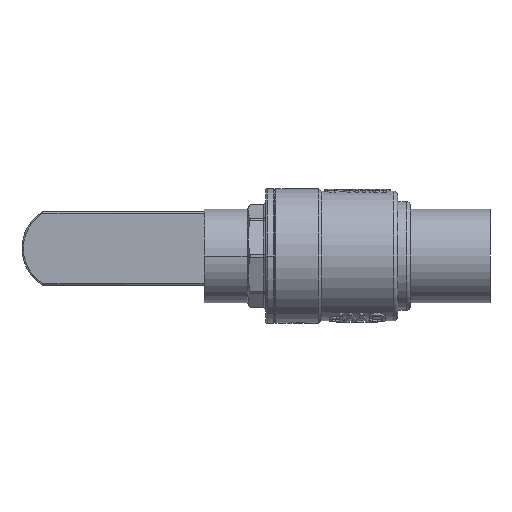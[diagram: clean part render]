
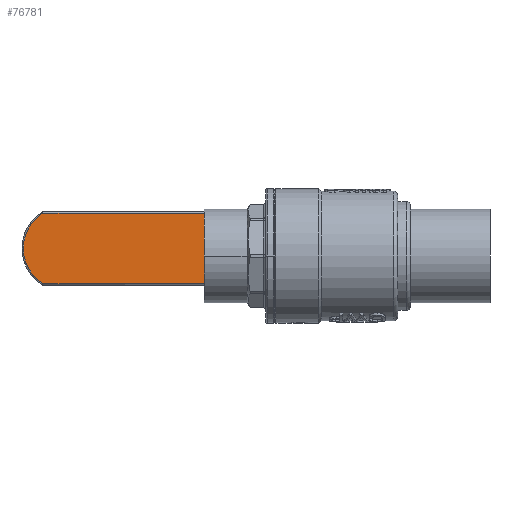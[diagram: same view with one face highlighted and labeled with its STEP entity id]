
A CAD part, front view. The second image highlights one B-rep face of the part: STEP entity #76781.
In plain terms, the highlighted planar face has unit normal (0, -1, 0).
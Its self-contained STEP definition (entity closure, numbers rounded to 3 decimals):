
#1424 = CIRCLE ( 'NONE', #6334, 15.5 ) ;
#1685 = FACE_OUTER_BOUND ( 'NONE', #95164, .T. ) ;
#1695 = AXIS2_PLACEMENT_3D ( 'NONE', #44220, #26869, #18580 ) ;
#2484 = DIRECTION ( 'NONE',  ( 0., 0., -1. ) ) ;
#6334 = AXIS2_PLACEMENT_3D ( 'NONE', #29950, #98539, #22409 ) ;
#14631 = ORIENTED_EDGE ( 'NONE', *, *, #22830, .T. ) ;
#15629 = CARTESIAN_POINT ( 'NONE',  ( 44.703, 21.4, -13.15 ) ) ;
#18580 = DIRECTION ( 'NONE',  ( 0., 0., 1. ) ) ;
#19074 = VERTEX_POINT ( 'NONE', #102108 ) ;
#22409 = DIRECTION ( 'NONE',  ( 0., 0., 1. ) ) ;
#22830 = EDGE_CURVE ( 'NONE', #19074, #91137, #86905, .T. ) ;
#26869 = DIRECTION ( 'NONE',  ( 0., 1., 0. ) ) ;
#29950 = CARTESIAN_POINT ( 'NONE',  ( 105., 21.4, 0. ) ) ;
#33671 = EDGE_CURVE ( 'NONE', #92614, #19074, #56793, .T. ) ;
#37524 = CARTESIAN_POINT ( 'NONE',  ( 45.203, 21.4, 12.65 ) ) ;
#37834 = VECTOR ( 'NONE', #2484, 1000. ) ;
#38557 = VERTEX_POINT ( 'NONE', #103615 ) ;
#43841 = PLANE ( 'NONE',  #1695 ) ;
#44220 = CARTESIAN_POINT ( 'NONE',  ( 44.703, 21.4, 12.65 ) ) ;
#49351 = VECTOR ( 'NONE', #79702, 1000. ) ;
#51564 = ORIENTED_EDGE ( 'NONE', *, *, #66765, .T. ) ;
#51800 = DIRECTION ( 'NONE',  ( 1., 0., 0. ) ) ;
#54500 = VECTOR ( 'NONE', #51800, 1000. ) ;
#56793 = LINE ( 'NONE', #37524, #37834 ) ;
#62357 = ORIENTED_EDGE ( 'NONE', *, *, #96936, .T. ) ;
#66765 = EDGE_CURVE ( 'NONE', #91137, #38557, #1424, .T. ) ;
#72536 = ORIENTED_EDGE ( 'NONE', *, *, #33671, .T. ) ;
#76781 = ADVANCED_FACE ( 'NONE', ( #1685 ), #43841, .F. ) ;
#79325 = CARTESIAN_POINT ( 'NONE',  ( 44.703, 21.4, 13.15 ) ) ;
#79702 = DIRECTION ( 'NONE',  ( -1., 0., 0. ) ) ;
#81725 = CARTESIAN_POINT ( 'NONE',  ( 113.205, 21.4, -13.15 ) ) ;
#86905 = LINE ( 'NONE', #15629, #54500 ) ;
#87852 = CARTESIAN_POINT ( 'NONE',  ( 45.203, 21.4, 13.15 ) ) ;
#91137 = VERTEX_POINT ( 'NONE', #81725 ) ;
#92614 = VERTEX_POINT ( 'NONE', #87852 ) ;
#95164 = EDGE_LOOP ( 'NONE', ( #62357, #72536, #14631, #51564 ) ) ;
#96936 = EDGE_CURVE ( 'NONE', #38557, #92614, #100604, .T. ) ;
#98539 = DIRECTION ( 'NONE',  ( 0., -1., 0. ) ) ;
#100604 = LINE ( 'NONE', #79325, #49351 ) ;
#102108 = CARTESIAN_POINT ( 'NONE',  ( 45.203, 21.4, -13.15 ) ) ;
#103615 = CARTESIAN_POINT ( 'NONE',  ( 113.205, 21.4, 13.15 ) ) ;
